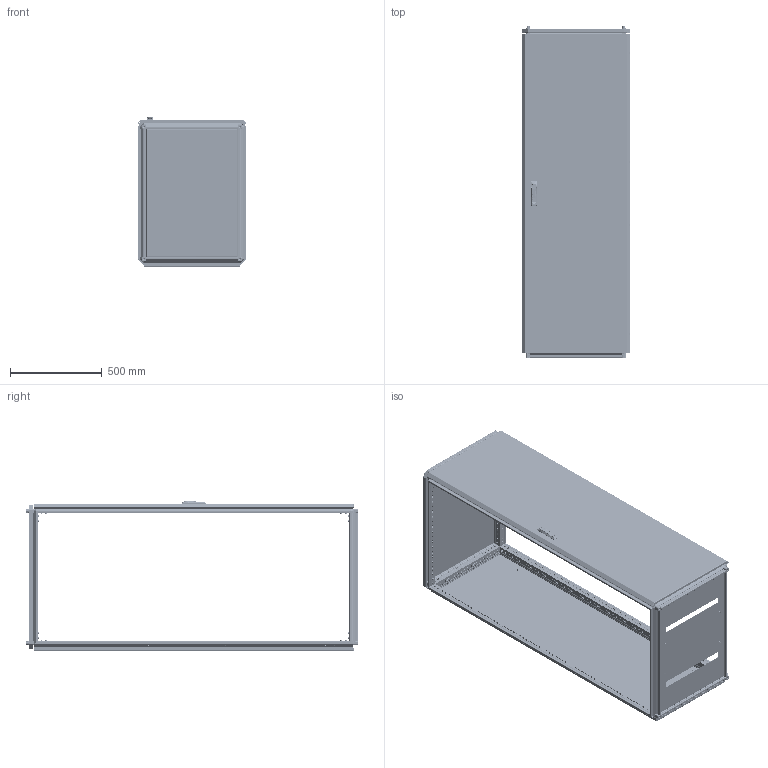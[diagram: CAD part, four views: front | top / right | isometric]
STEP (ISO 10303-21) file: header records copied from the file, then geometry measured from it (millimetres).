
FILE_DESCRIPTION (( 'STEP AP203' ), '1' );
FILE_NAME ('MA1.000.060818.10.00 AleSta1868 Øêàô AleSta 600õ800õ1800.STEP', '2024-08-23T07:46:01', ( '' ), ( '' ), 'SwSTEP 2.0', 'SolidWorks 2021', '' );
FILE_SCHEMA (( 'CONFIG_CONTROL_DESIGN' ));
Length unit declared in the file: millimetre
Products named in the file (50): Áîëò øåñòèãðàííûé Ì5õ12 DIN 933, êëàññ ïðî÷íîñòè 8.8, îöèíêîâàííàÿ ñòàëü; MA1.102.060620.00.01 Ïðîôèëü âåðòèêàëüíûé ñâàðíîé_03 L=1698 (‚=1800); òÿãà_lg001-2.STEP_‚ =1800; MA1.101.060620.00.00 AleSta-RB66 Êîìïëåêò êðûøà è îñíîâàíèå_  600å800; MA1.200.060620.31.05 Óãëîâîé óïîð äâåðíîé òÿãè; MA1.101.060620.10.00 Êðûøà 600x600_600å800; Íàâåñêà íà êîðïóñ ïîä êëåïêó; Âèíò ñ âí. øåñòèãðàííèêîì M12 DIN912_•30; Îñü ïåòëè 4õ52_‚¨­â A.M4x0,5x40 ƒŽ‘’ 11644-75; MA1.200.060620.31.03 Ðåéêà íà äâåðü ãîðèçîíòàëüíàÿ Ø = 600_˜ = 600; Øïèëüêà Ì6õ12_˜¯¨«ìª  Œ6å12; 諘蜱齁罻 022 瀁錒瀔隮; Âèíò_ðåçüáîâûäàâëèâàþùèé_Ì5õ12_DIN 7500E_Œ5å12; MS463-2-3(1); Øïèëüêà Ì6õ12_˜¯¨«ìª  Œ6å16; 7380-2 ISO Âèíòû ñ ïîëóêðóãëîé ãîëîâêîé ñ ôëàíöåì ñ âíóòðåííèì øåñòèãðàííèêîì Ì4õ10; MA1.200.060620.11.00 Ïàíåëü çàäíÿÿ, äëÿ øêàôîâ AleSta, 2000x600_1800å600; Ãàéêà ñàìîêîíòðÿùàÿñÿ ñ íåéëîíîâîé âñòàâêîé Ì6 DIN 985, êëàññ ïðî÷íîñòè 8, îöèíêîâàííàÿ ñòàëü_Œ5; MA1.101.060620.20.02 Çàêðûòèå íèæíåé ïàíåëè 600õ600_600x800; MA1.200.060620.10.00 AleSta-PR206  Ïàíåëü çàäíÿÿ, äëÿ øêàôîâ ALESTA, 2000 x 600_1800å600; MA1.100.060620.00.01 Ñîåäèíèòåëü óãëîâîé_00; Ïåòëÿ íà äâåðü ï-îáðàçíàÿ; Ãàéêà ñàìîêîíòðÿùàÿñÿ ñ íåéëîíîâîé âñòàâêîé Ì6 DIN 985, êëàññ ïðî÷íîñòè 8, îöèíêîâàííàÿ ñòàëü_Œ6; MA1.101.060620.10.01 Ïîëîòíî êðûøè 600õ600_600å800; ﾇﾀﾊﾋﾅﾏﾊﾀ ﾃﾀﾅﾗﾍﾀﾟ ﾘﾅﾑﾒﾈﾃﾐﾀﾍﾍﾀﾟ ﾑ ﾓﾌﾅﾍﾜﾘﾅﾍﾍﾛﾌ ﾁﾎﾐﾒﾎﾌ M4 X 11 (0.5-2.5 ﾌﾌ) HEX U-S ﾖﾈﾍﾊ; MA1.200.060620.30.00 AleSta-D20M600 Äâåðü ñïëîøíàÿ äëÿ øêàôîâ ALESTA ÂõØ 2000õ600_1800å600; Âèíò_ðåçüáîâûäàâëèâàþùèé_Ì5õ12_DIN 7500E_00; MA1.000.060818.10.00 AleSta1868 Øêàô AleSta 600õ800õ1800; Øïèëüêà Ì6õ12_˜¯¨«ìª  Œ6å20; Ïðîáêà ïëàñòèêîâàÿ óíèâåðñàëüíàÿ ïîä îòâåðñòèå 4,5 ìì, ñåðèÿ ST, öâåò áåñöâåòíûé – ST4,5; Øàéáà ñòîïîðíàÿ ñ íàðóæíûìè çóáöàìè SCHNORR, òèï VS öèíêîâûå õëîïüÿ Ì6 O6,4 ART 88121_Œ6; MA1.200.060620.31.01 Ïîëîòíî äâåðè ñïëîøíîé 2000õ600_1800å600; ﾘ琺矜 01.019 ﾃﾎﾑﾒ11371-78_12; MA1.102.060620.00.00 AleSta-VG2000 Ñòîéêè âåðòèêàëüíûå, Â=2000ìì  (4øò)_  600å800; ﾘ琺矜 65ﾃ 019 ﾃﾎﾑﾒ 6402-70_12; Óïëîòíèòåëü ïàíåëè íèæíåé_‚=1800; Âèíò ñàìîíàðåçàþùèé ñ ïîòàéíîé ãîëîâêîé Ì5x14 DIN 7500 M TORX, êëàññ ïðî÷íîñòè 8.8, îöèíêîâàííàÿ ñòàëü_Œ5å12; Âèíò ñàìîíàðåçàþùèé ñ ïîòàéíîé ãîëîâêîé Ì5x14 DIN 7500 M TORX, êëàññ ïðî÷íîñòè 8.8, îöèíêîâàííàÿ ñòàëü_Œ5å14; Óïëîòíèòåëü ïàíåëè íèæíåé_600å800; MA1.200.060620.11.01 Ïîëîòíî çàäíåé ïàíåëè 2000õ600_1800å600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
Assembly tree (337 placements, depth 4):
  MA1.000.060818.10.00 AleSta1868 Øêàô AleSta 600õ800õ1800
    MA1.101.060620.00.00 AleSta-RB66 Êîìïëåêò êðûøà è îñíîâàíèå_  600å800
      MA1.101.060620.00.02 Ïðîôèëü ïîïåðå÷íûé ñâàðíîé_02 L=698 (˜=800)   x4
      MA1.101.060620.00.02 Ïðîôèëü ïîïåðå÷íûé ñâàðíîé_01 L=498 (˜=600)  x4
      MA1.101.060620.10.00 Êðûøà 600x600_600å800
        MA1.101.060620.10.01 Ïîëîòíî êðûøè 600õ600_600å800
        Øïèëüêà Ì6õ12_˜¯¨«ìª  Œ6å12  x4
        Óïëîòíèòåëü ïàíåëè íèæíåé_600å800
      MA1.101.060620.20.00 Íèæíÿÿ ïàíåëü 600õ600_600å800
        MA1.101.060620.20.01 Ïîëîòíî íèæíåé ïàíåëè 600õ600_600å800
        ﾇﾀﾊﾋﾅﾏﾊﾀ ﾃﾀﾅﾗﾍﾀﾟ ﾘﾅﾑﾒﾈﾃﾐﾀﾍﾍﾀﾟ ﾑ ﾓﾌﾅﾍﾜﾘﾅﾍﾍﾛﾌ ﾁﾎﾐﾒﾎﾌ M4 X 11 (0.5-2.5 ﾌﾌ) HEX U-S ﾖﾈﾍﾊ  x4
        MA1.101.060620.20.02 Çàêðûòèå íèæíåé ïàíåëè 600õ600_600x800  x2
        7380-2 ISO Âèíòû ñ ïîëóêðóãëîé ãîëîâêîé ñ ôëàíöåì ñ âíóòðåííèì øåñòèãðàííèêîì Ì4õ10  x4
      Âèíò_ðåçüáîâûäàâëèâàþùèé_Ì5õ12_DIN 7500E_Œ5å12  x8
      MA1.100.060620.00.01 Ñîåäèíèòåëü óãëîâîé_00  x8
      Âèíò ñ âí. øåñòèãðàííèêîì M12 DIN912_•30  x4
      Âèíò ðåçüáîâûäàâëèâàþùèé Ì6õ12 DIN 7500E_Œ6å10  x96
      ﾘ琺矜 01.019 ﾃﾎﾑﾒ11371-78_12  x4
      ﾘ琺矜 65ﾃ 019 ﾃﾎﾑﾒ 6402-70_12  x4
      Øàéáà ñòîïîðíàÿ ñ íàðóæíûìè çóáöàìè SCHNORR, òèï VS öèíêîâûå õëîïüÿ Ì6 O6,4 ART 88121_Œ6  x80
    MA1.102.060620.00.00 AleSta-VG2000 Ñòîéêè âåðòèêàëüíûå, Â=2000ìì  (4øò)_  600å800
      MA1.102.060620.00.01 Ïðîôèëü âåðòèêàëüíûé ñâàðíîé_03 L=1698 (‚=1800)  x4
    MA1.200.060620.10.00 AleSta-PR206  Ïàíåëü çàäíÿÿ, äëÿ øêàôîâ ALESTA, 2000 x 600_1800å600
      MA1.200.060620.11.00 Ïàíåëü çàäíÿÿ, äëÿ øêàôîâ AleSta, 2000x600_1800å600
        MA1.200.060620.11.01 Ïîëîòíî çàäíåé ïàíåëè 2000õ600_1800å600
        Óïëîòíèòåëü ïàíåëè íèæíåé_‚=1800
        Øïèëüêà Ì6õ12_˜¯¨«ìª  Œ6å12  x4
      Âèíò ñàìîíàðåçàþùèé ñ ïîòàéíîé ãîëîâêîé Ì5x14 DIN 7500 M TORX, êëàññ ïðî÷íîñòè 8.8, îöèíêîâàííàÿ ñòàëü_Œ5å14  x8
    MA1.200.060620.30.00 AleSta-D20M600 Äâåðü ñïëîøíàÿ äëÿ øêàôîâ ALESTA ÂõØ 2000õ600_1800å600
      MA1.200.060620.31.00 Äâåðü ñïëîøíàÿ äëÿ øêàôîâ ALESTA ÂõØ 2000õ600_1800å600
        MA1.200.060620.31.01 Ïîëîòíî äâåðè ñïëîøíîé 2000õ600_1800å600
        Óïëîòíèòåëü ïàíåëè íèæíåé_‚=1800
        Øïèëüêà Ì6õ12_˜¯¨«ìª  Œ6å20  x16
        Øïèëüêà Ì6õ12_˜¯¨«ìª  Œ6å16  x4
        Ïåòëÿ íà äâåðü ï-îáðàçíàÿ  x4
      MA1.200.060620.31.03 Ðåéêà íà äâåðü ãîðèçîíòàëüíàÿ Ø = 600_˜ = 600  x2
      諘蜱齁罻 022 瀁錒瀔隮  x4
      MA1.200.060620.31.02 Ðåéêà íà äâåðü âåðòèêàëüíàÿ Â = 2000_‚=1800  x2
      äåðæàòåëü_êðóãëîé_òÿãèRG002-RG1010-2-i-RG1010-3-.stp  x2
      òÿãà_lg001-2.STEP_‚ =1800  x2
      êðåïëåíèå_êðóãëîé_òÿãè_RG1020-1.stp  x2
      MS463-2-3(1)
      Ãàéêà ñàìîêîíòðÿùàÿñÿ ñ íåéëîíîâîé âñòàâêîé Ì6 DIN 985, êëàññ ïðî÷íîñòè 8, îöèíêîâàííàÿ ñòàëü_Œ6  x16
      Ãàéêà ñàìîêîíòðÿùàÿñÿ ñ íåéëîíîâîé âñòàâêîé Ì6 DIN 985, êëàññ ïðî÷íîñòè 8, îöèíêîâàííàÿ ñòàëü_Œ5  x2
      Áîëò øåñòèãðàííûé Ì5õ12 DIN 933, êëàññ ïðî÷íîñòè 8.8, îöèíêîâàííàÿ ñòàëü  x2
      MA1.200.060620.31.04 ðèãåëü çàìêà äâåðè
      MA1.200.060620.31.05 Óãëîâîé óïîð äâåðíîé òÿãè  x2
      Âèíò_ðåçüáîâûäàâëèâàþùèé_Ì5õ12_DIN 7500E_00  x2
      Íàâåñêà íà êîðïóñ ïîä êëåïêó  x4
      Îñü ïåòëè 4õ52_‚¨­â A.M4x0,5x40 ƒŽ‘’ 11644-75  x4
      Âèíò ñàìîíàðåçàþùèé ñ ïîòàéíîé ãîëîâêîé Ì5x14 DIN 7500 M TORX, êëàññ ïðî÷íîñòè 8.8, îöèíêîâàííàÿ ñòàëü_Œ5å12  x8
  Ïðîáêà ïëàñòèêîâàÿ óíèâåðñàëüíàÿ ïîä îòâåðñòèå 4,5 ìì, ñåðèÿ ST, öâåò áåñöâåòíûé – ST4,5
Bounding box: 592 x 1810.9 x 816.8 mm (x, y, z)
Volume: 9025651.2 mm3; surface area: 11484093.9 mm2
Topology: 364 solids, 378 shells, 23787 faces, 61398 edges, 38440 vertices
Faces by surface type: plane 14249, cylinder 6845, bspline 921, cone 845, torus 829, sphere 98
Entity records: 249304 total; most frequent: CARTESIAN_POINT 79945, ORIENTED_EDGE 32402, DIRECTION 31856, EDGE_CURVE 16218, AXIS2_PLACEMENT_3D 10912, VERTEX_POINT 10109, VECTOR 10032, LINE 10032
